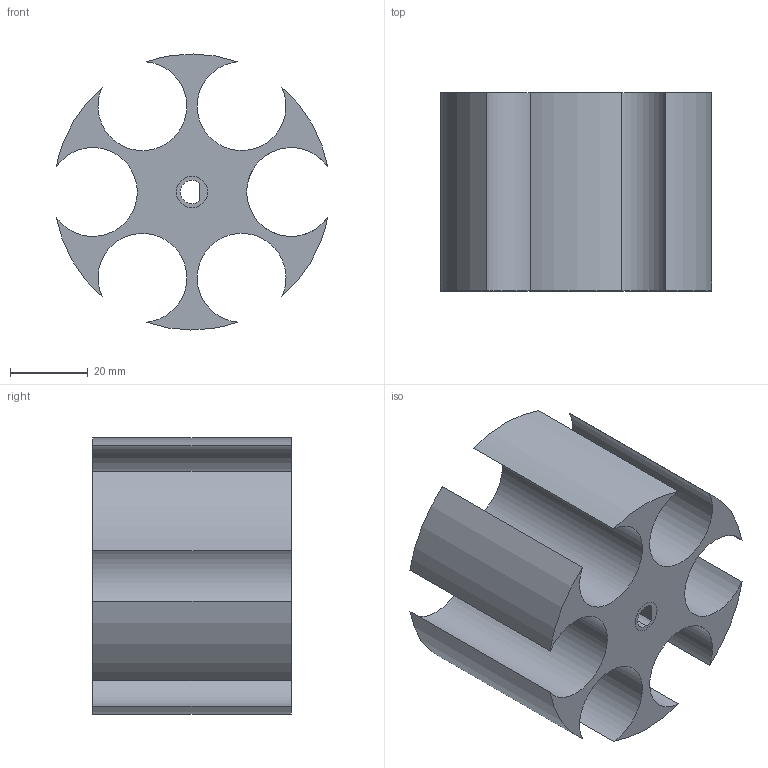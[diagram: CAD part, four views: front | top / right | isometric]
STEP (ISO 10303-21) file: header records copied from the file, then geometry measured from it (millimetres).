
FILE_DESCRIPTION(('Open CASCADE Model'),'2;1');
FILE_NAME('Open CASCADE Shape Model','2026-09-11T00:33:29',('Author'),( 'Open CASCADE'),'Open CASCADE STEP processor 7.9','Open CASCADE 7.9' ,'Unknown');
FILE_SCHEMA(('AUTOMOTIVE_DESIGN { 1 0 10303 214 1 1 1 1 }'));
Length unit declared in the file: millimetre
Products named in the file (1): Open CASCADE STEP translator 7.9 1
Bounding box: 69.6 x 50.8 x 70.8 mm (x, y, z)
Volume: 78933.4 mm3; surface area: 29018.3 mm2
Topology: 1 solids, 1 shells, 25 faces, 62 edges, 41 vertices
Faces by surface type: bspline 14, cylinder 8, plane 3
Entity records: 1652 total; most frequent: CARTESIAN_POINT 733, ORIENTED_EDGE 124, PCURVE 124, DEFINITIONAL_REPRESENTATION 124, B_SPLINE_CURVE_WITH_KNOTS 90, DIRECTION 82, EDGE_CURVE 62, SURFACE_CURVE 62
